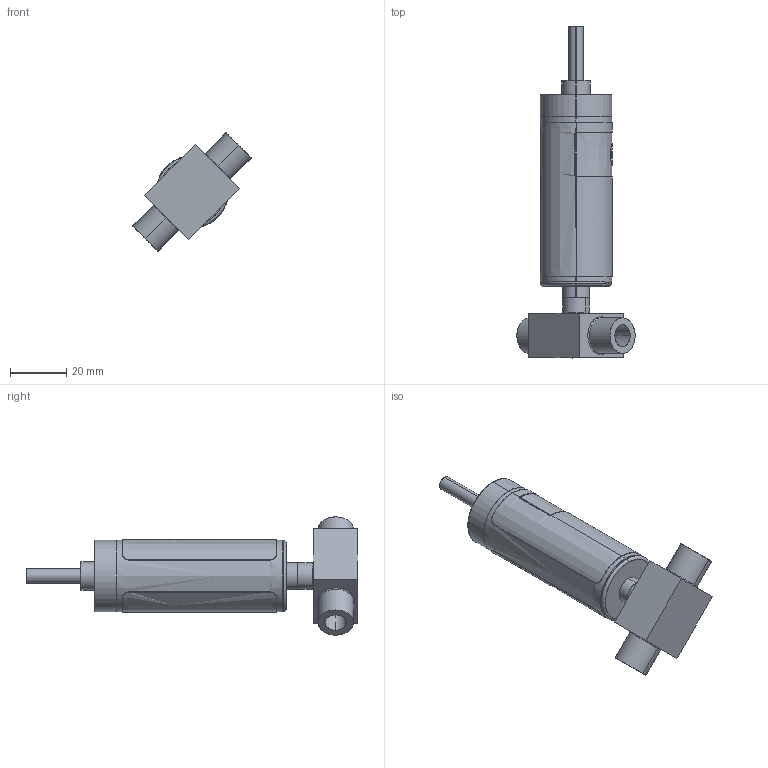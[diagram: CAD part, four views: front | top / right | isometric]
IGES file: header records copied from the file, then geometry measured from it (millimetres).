
Start section: SolidWorks IGES file using analytic representation for surfaces
Global section: file name: R:\Brooks Instrument\25-0024 SSII CAD File Generation\Client Files\SSII CAD Models for Website\CAD for Brooks Website\Example\GSF\GSF-XXXXXX-P-XXX-2T\IGES\GSF-XXXXXX-P-XXX-2T.IGS; native system: SolidWorks 2023; preprocessor: SolidWorks 2023; author: dgoddard; date: 250623.113948; units: inch
Bounding box: 42.21 x 118.49 x 42.21 mm (x, y, z)
Surface area: 19175.7 mm2 (no closed solid volume)
Topology: 0 solids, 0 shells, 195 faces, 2855 edges, 2855 vertices
Faces by surface type: bspline 121, revolution 74
